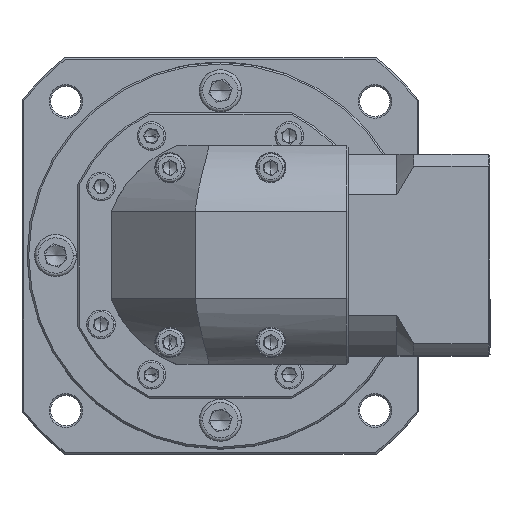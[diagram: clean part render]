
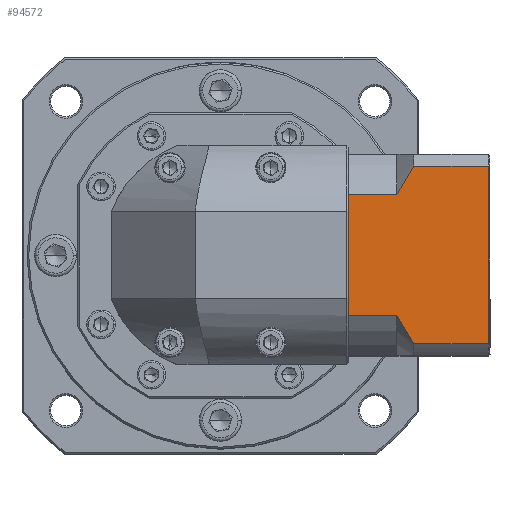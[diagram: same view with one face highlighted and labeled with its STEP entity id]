
A CAD part, top view. The second image highlights one B-rep face of the part: STEP entity #94572.
In plain terms, the highlighted planar face has unit normal (0, 0, 1).
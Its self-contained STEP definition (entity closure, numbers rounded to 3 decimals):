
#1534 = CARTESIAN_POINT ( 'NONE',  ( 128.794, 81.038, 43.543 ) ) ;
#2171 = VERTEX_POINT ( 'NONE', #139741 ) ;
#5360 = CARTESIAN_POINT ( 'NONE',  ( 156.494, 137.495, 43.543 ) ) ;
#5723 = CARTESIAN_POINT ( 'NONE',  ( 128.794, 125.523, 43.543 ) ) ;
#6572 = DIRECTION ( 'NONE',  ( 1., 0., 0. ) ) ;
#6708 = CARTESIAN_POINT ( 'NONE',  ( 128.794, 89.468, 43.543 ) ) ;
#6957 = CARTESIAN_POINT ( 'NONE',  ( 133.794, 133.953, 43.543 ) ) ;
#7195 = EDGE_CURVE ( 'NONE', #74692, #13076, #96843, .T. ) ;
#12311 = VECTOR ( 'NONE', #100435, 1000. ) ;
#12411 = CARTESIAN_POINT ( 'NONE',  ( 114.294, 137.495, 43.543 ) ) ;
#13076 = VERTEX_POINT ( 'NONE', #14141 ) ;
#14141 = CARTESIAN_POINT ( 'NONE',  ( 133.794, 81.038, 43.543 ) ) ;
#16194 = LINE ( 'NONE', #30546, #70400 ) ;
#16898 = EDGE_CURVE ( 'NONE', #127748, #35956, #109697, .T. ) ;
#17186 = CARTESIAN_POINT ( 'NONE',  ( 129.544, 88.011, 43.543 ) ) ;
#18376 = CARTESIAN_POINT ( 'NONE',  ( 114.294, 90.459, 43.543 ) ) ;
#18529 = ORIENTED_EDGE ( 'NONE', *, *, #112418, .T. ) ;
#21430 = ORIENTED_EDGE ( 'NONE', *, *, #16898, .F. ) ;
#21466 = EDGE_CURVE ( 'NONE', #99109, #2171, #111764, .T. ) ;
#22082 = CARTESIAN_POINT ( 'NONE',  ( 114.294, 137.495, 43.543 ) ) ;
#25028 = VECTOR ( 'NONE', #103835, 1000. ) ;
#26165 = ORIENTED_EDGE ( 'NONE', *, *, #122066, .F. ) ;
#26655 = DIRECTION ( 'NONE',  ( 1., 0., 0. ) ) ;
#28008 = CARTESIAN_POINT ( 'NONE',  ( 132.019, 83.78, 43.543 ) ) ;
#29301 = CARTESIAN_POINT ( 'NONE',  ( 114.294, 124.532, 43.543 ) ) ;
#30546 = CARTESIAN_POINT ( 'NONE',  ( 155.994, 137.495, 43.543 ) ) ;
#30933 = CARTESIAN_POINT ( 'NONE',  ( 128.794, 133.953, 43.543 ) ) ;
#33138 = EDGE_CURVE ( 'NONE', #86741, #35956, #52781, .T. ) ;
#35956 = VERTEX_POINT ( 'NONE', #5723 ) ;
#37760 = CARTESIAN_POINT ( 'NONE',  ( 128.794, 125.523, 43.543 ) ) ;
#38091 = CARTESIAN_POINT ( 'NONE',  ( 128.794, 89.468, 43.543 ) ) ;
#39900 = CARTESIAN_POINT ( 'NONE',  ( 130.345, 86.586, 43.543 ) ) ;
#48239 = CARTESIAN_POINT ( 'NONE',  ( 132.021, 131.214, 43.543 ) ) ;
#48690 = CARTESIAN_POINT ( 'NONE',  ( 129.542, 126.975, 43.543 ) ) ;
#48993 = LINE ( 'NONE', #30933, #98067 ) ;
#52448 = ORIENTED_EDGE ( 'NONE', *, *, #83135, .T. ) ;
#52485 = VECTOR ( 'NONE', #91813, 1000. ) ;
#52781 = B_SPLINE_CURVE_WITH_KNOTS ( 'NONE', 3,
 ( #6957, #82746, #48239, #93544, #48690, #37760 ),
 .UNSPECIFIED., .F., .F.,
 ( 4, 2, 4 ),
 ( 0.052, 0.057, 0.062 ),
 .UNSPECIFIED. ) ;
#55301 = VECTOR ( 'NONE', #132948, 1000. ) ;
#56860 = ORIENTED_EDGE ( 'NONE', *, *, #7195, .F. ) ;
#60585 = FACE_OUTER_BOUND ( 'NONE', #74177, .T. ) ;
#60777 = CARTESIAN_POINT ( 'NONE',  ( 128.794, 89.468, 43.543 ) ) ;
#61428 = VERTEX_POINT ( 'NONE', #29301 ) ;
#70400 = VECTOR ( 'NONE', #137138, 1000. ) ;
#71495 = CARTESIAN_POINT ( 'NONE',  ( 128.794, 125.523, 43.543 ) ) ;
#72019 = CARTESIAN_POINT ( 'NONE',  ( 133.794, 133.953, 43.543 ) ) ;
#72602 = EDGE_CURVE ( 'NONE', #80261, #2171, #82639, .T. ) ;
#73053 = CARTESIAN_POINT ( 'NONE',  ( 132.893, 82.401, 43.543 ) ) ;
#74177 = EDGE_LOOP ( 'NONE', ( #56860, #78001, #26165, #113125, #21430, #18529, #81214, #99370, #86325, #52448 ) ) ;
#74692 = VERTEX_POINT ( 'NONE', #140021 ) ;
#75546 = VECTOR ( 'NONE', #97738, 1000. ) ;
#77353 = LINE ( 'NONE', #128438, #55301 ) ;
#78001 = ORIENTED_EDGE ( 'NONE', *, *, #81475, .T. ) ;
#79096 = AXIS2_PLACEMENT_3D ( 'NONE', #5360, #100944, #26655 ) ;
#80261 = VERTEX_POINT ( 'NONE', #60777 ) ;
#80782 = CARTESIAN_POINT ( 'NONE',  ( 155.994, 133.953, 43.543 ) ) ;
#80925 = VECTOR ( 'NONE', #6572, 1000. ) ;
#81214 = ORIENTED_EDGE ( 'NONE', *, *, #106732, .T. ) ;
#81475 = EDGE_CURVE ( 'NONE', #74692, #114311, #16194, .T. ) ;
#82639 = LINE ( 'NONE', #38091, #25028 ) ;
#82746 = CARTESIAN_POINT ( 'NONE',  ( 132.894, 132.593, 43.543 ) ) ;
#83135 = EDGE_CURVE ( 'NONE', #80261, #13076, #134234, .T. ) ;
#86325 = ORIENTED_EDGE ( 'NONE', *, *, #72602, .F. ) ;
#86741 = VERTEX_POINT ( 'NONE', #72019 ) ;
#91813 = DIRECTION ( 'NONE',  ( 0., -1., 0. ) ) ;
#93544 = CARTESIAN_POINT ( 'NONE',  ( 130.345, 128.407, 43.543 ) ) ;
#94572 = ADVANCED_FACE ( 'NONE', ( #60585 ), #112347, .F. ) ;
#96843 = LINE ( 'NONE', #1534, #12311 ) ;
#97738 = DIRECTION ( 'NONE',  ( 0., -1., 0. ) ) ;
#98067 = VECTOR ( 'NONE', #138468, 1000. ) ;
#99109 = VERTEX_POINT ( 'NONE', #18376 ) ;
#99370 = ORIENTED_EDGE ( 'NONE', *, *, #21466, .T. ) ;
#100435 = DIRECTION ( 'NONE',  ( -1., 0., 0. ) ) ;
#100944 = DIRECTION ( 'NONE',  ( 0., 0., -1. ) ) ;
#103835 = DIRECTION ( 'NONE',  ( -1., 0., 0. ) ) ;
#106732 = EDGE_CURVE ( 'NONE', #61428, #99109, #77353, .T. ) ;
#109697 = LINE ( 'NONE', #71495, #80925 ) ;
#111764 = LINE ( 'NONE', #12411, #52485 ) ;
#112347 = PLANE ( 'NONE',  #79096 ) ;
#112418 = EDGE_CURVE ( 'NONE', #127748, #61428, #112729, .T. ) ;
#112729 = LINE ( 'NONE', #22082, #75546 ) ;
#113125 = ORIENTED_EDGE ( 'NONE', *, *, #33138, .T. ) ;
#114311 = VERTEX_POINT ( 'NONE', #80782 ) ;
#115122 = CARTESIAN_POINT ( 'NONE',  ( 133.794, 81.038, 43.543 ) ) ;
#122066 = EDGE_CURVE ( 'NONE', #86741, #114311, #48993, .T. ) ;
#127748 = VERTEX_POINT ( 'NONE', #131877 ) ;
#128438 = CARTESIAN_POINT ( 'NONE',  ( 114.294, 137.495, 43.543 ) ) ;
#131877 = CARTESIAN_POINT ( 'NONE',  ( 114.294, 125.523, 43.543 ) ) ;
#132948 = DIRECTION ( 'NONE',  ( 0., -1., 0. ) ) ;
#134234 = B_SPLINE_CURVE_WITH_KNOTS ( 'NONE', 3,
 ( #6708, #17186, #39900, #28008, #73053, #115122 ),
 .UNSPECIFIED., .F., .F.,
 ( 4, 2, 4 ),
 ( 0.1, 0.104, 0.109 ),
 .UNSPECIFIED. ) ;
#137138 = DIRECTION ( 'NONE',  ( 0., 1., 0. ) ) ;
#138468 = DIRECTION ( 'NONE',  ( 1., 0., 0. ) ) ;
#139741 = CARTESIAN_POINT ( 'NONE',  ( 114.294, 89.468, 43.543 ) ) ;
#140021 = CARTESIAN_POINT ( 'NONE',  ( 155.994, 81.038, 43.543 ) ) ;
